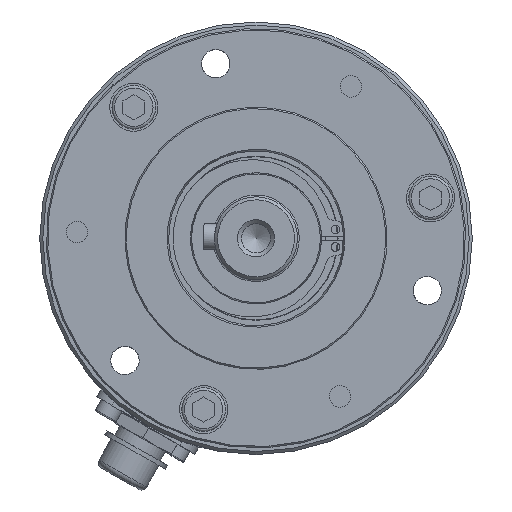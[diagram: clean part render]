
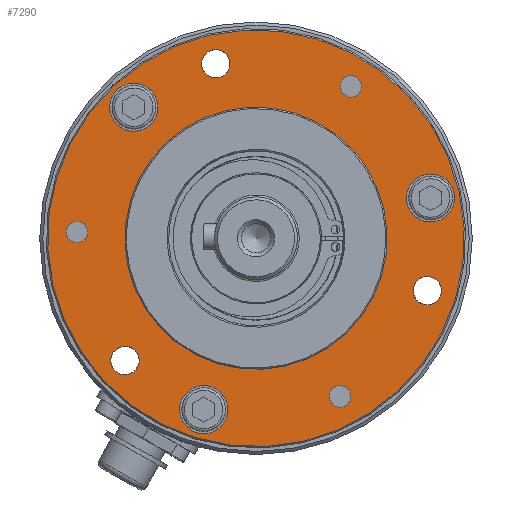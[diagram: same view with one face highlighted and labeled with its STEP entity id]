
A CAD part, left-side view. The second image highlights one B-rep face of the part: STEP entity #7290.
In plain terms, the highlighted planar face has unit normal (-1, 0, 0).
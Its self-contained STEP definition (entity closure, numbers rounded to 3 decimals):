
#1686=FACE_BOUND('',#2503,.T.);
#1687=FACE_BOUND('',#2504,.T.);
#1688=FACE_BOUND('',#2505,.T.);
#1689=FACE_BOUND('',#2506,.T.);
#1690=FACE_BOUND('',#2507,.T.);
#1691=FACE_BOUND('',#2508,.T.);
#1692=FACE_BOUND('',#2509,.T.);
#1693=FACE_BOUND('',#2510,.T.);
#1694=FACE_BOUND('',#2511,.T.);
#1695=FACE_BOUND('',#2512,.T.);
#1994=FACE_OUTER_BOUND('',#2502,.T.);
#2502=EDGE_LOOP('',(#5338));
#2503=EDGE_LOOP('',(#5339));
#2504=EDGE_LOOP('',(#5340));
#2505=EDGE_LOOP('',(#5341));
#2506=EDGE_LOOP('',(#5342));
#2507=EDGE_LOOP('',(#5343));
#2508=EDGE_LOOP('',(#5344));
#2509=EDGE_LOOP('',(#5345));
#2510=EDGE_LOOP('',(#5346));
#2511=EDGE_LOOP('',(#5347));
#2512=EDGE_LOOP('',(#5348));
#3189=CIRCLE('',#7830,2.459);
#3191=CIRCLE('',#7833,2.459);
#3193=CIRCLE('',#7836,2.459);
#3194=CIRCLE('',#7838,5.5);
#3197=CIRCLE('',#7843,5.5);
#3199=CIRCLE('',#7847,5.5);
#3202=CIRCLE('',#7852,3.25);
#3203=CIRCLE('',#7854,3.25);
#3204=CIRCLE('',#7856,3.25);
#3205=CIRCLE('',#7858,30.);
#3210=CIRCLE('',#7866,47.7);
#3644=VERTEX_POINT('',#11083);
#3646=VERTEX_POINT('',#11088);
#3648=VERTEX_POINT('',#11093);
#3649=VERTEX_POINT('',#11096);
#3652=VERTEX_POINT('',#11104);
#3654=VERTEX_POINT('',#11110);
#3657=VERTEX_POINT('',#11118);
#3658=VERTEX_POINT('',#11121);
#3659=VERTEX_POINT('',#11124);
#3660=VERTEX_POINT('',#11127);
#3665=VERTEX_POINT('',#11140);
#4338=EDGE_CURVE('',#3644,#3644,#3189,.T.);
#4340=EDGE_CURVE('',#3646,#3646,#3191,.T.);
#4342=EDGE_CURVE('',#3648,#3648,#3193,.T.);
#4343=EDGE_CURVE('',#3649,#3649,#3194,.T.);
#4346=EDGE_CURVE('',#3652,#3652,#3197,.T.);
#4348=EDGE_CURVE('',#3654,#3654,#3199,.T.);
#4351=EDGE_CURVE('',#3657,#3657,#3202,.T.);
#4352=EDGE_CURVE('',#3658,#3658,#3203,.T.);
#4353=EDGE_CURVE('',#3659,#3659,#3204,.T.);
#4354=EDGE_CURVE('',#3660,#3660,#3205,.T.);
#4359=EDGE_CURVE('',#3665,#3665,#3210,.T.);
#5338=ORIENTED_EDGE('',*,*,#4359,.F.);
#5339=ORIENTED_EDGE('',*,*,#4354,.T.);
#5340=ORIENTED_EDGE('',*,*,#4338,.T.);
#5341=ORIENTED_EDGE('',*,*,#4340,.T.);
#5342=ORIENTED_EDGE('',*,*,#4342,.T.);
#5343=ORIENTED_EDGE('',*,*,#4343,.T.);
#5344=ORIENTED_EDGE('',*,*,#4346,.T.);
#5345=ORIENTED_EDGE('',*,*,#4348,.T.);
#5346=ORIENTED_EDGE('',*,*,#4351,.T.);
#5347=ORIENTED_EDGE('',*,*,#4352,.T.);
#5348=ORIENTED_EDGE('',*,*,#4353,.T.);
#7030=PLANE('',#7865);
#7290=ADVANCED_FACE('',(#1994,#1686,#1687,#1688,#1689,#1690,#1691,#1692,
#1693,#1694,#1695),#7030,.T.);
#7830=AXIS2_PLACEMENT_3D('',#11084,#8856,#8857);
#7833=AXIS2_PLACEMENT_3D('',#11089,#8862,#8863);
#7836=AXIS2_PLACEMENT_3D('',#11094,#8868,#8869);
#7838=AXIS2_PLACEMENT_3D('',#11097,#8872,#8873);
#7843=AXIS2_PLACEMENT_3D('',#11105,#8882,#8883);
#7847=AXIS2_PLACEMENT_3D('',#11111,#8890,#8891);
#7852=AXIS2_PLACEMENT_3D('',#11119,#8900,#8901);
#7854=AXIS2_PLACEMENT_3D('',#11122,#8904,#8905);
#7856=AXIS2_PLACEMENT_3D('',#11125,#8908,#8909);
#7858=AXIS2_PLACEMENT_3D('',#11128,#8912,#8913);
#7865=AXIS2_PLACEMENT_3D('',#11139,#8926,#8927);
#7866=AXIS2_PLACEMENT_3D('',#11141,#8928,#8929);
#8856=DIRECTION('center_axis',(1.,0.,0.));
#8857=DIRECTION('ref_axis',(0.,-0.225,-0.974));
#8862=DIRECTION('center_axis',(1.,0.,0.));
#8863=DIRECTION('ref_axis',(0.,-0.225,-0.974));
#8868=DIRECTION('center_axis',(1.,0.,0.));
#8869=DIRECTION('ref_axis',(0.,-0.225,-0.974));
#8872=DIRECTION('center_axis',(1.,0.,0.));
#8873=DIRECTION('ref_axis',(0.,-0.225,-0.974));
#8882=DIRECTION('center_axis',(1.,0.,0.));
#8883=DIRECTION('ref_axis',(0.,-0.225,-0.974));
#8890=DIRECTION('center_axis',(1.,0.,0.));
#8891=DIRECTION('ref_axis',(0.,-0.225,-0.974));
#8900=DIRECTION('center_axis',(1.,0.,0.));
#8901=DIRECTION('ref_axis',(0.,-0.225,-0.974));
#8904=DIRECTION('center_axis',(1.,0.,0.));
#8905=DIRECTION('ref_axis',(0.,-0.225,-0.974));
#8908=DIRECTION('center_axis',(1.,0.,0.));
#8909=DIRECTION('ref_axis',(0.,-0.225,-0.974));
#8912=DIRECTION('center_axis',(1.,0.,0.));
#8913=DIRECTION('ref_axis',(0.,-0.974,0.225));
#8926=DIRECTION('center_axis',(-1.,0.,0.));
#8927=DIRECTION('ref_axis',(0.,-0.225,-0.974));
#8928=DIRECTION('center_axis',(1.,0.,0.));
#8929=DIRECTION('ref_axis',(0.,0.974,-0.225));
#11083=CARTESIAN_POINT('',(-14.5,-19.801,-38.596));
#11084=CARTESIAN_POINT('Origin',(-14.5,-19.248,-36.201));
#11088=CARTESIAN_POINT('',(-14.5,-22.28,32.374));
#11089=CARTESIAN_POINT('Origin',(-14.5,-21.727,34.77));
#11093=CARTESIAN_POINT('',(-14.5,40.422,-0.965));
#11094=CARTESIAN_POINT('Origin',(-14.5,40.975,1.431));
#11096=CARTESIAN_POINT('',(-14.5,26.725,24.626));
#11097=CARTESIAN_POINT('Origin',(-14.5,27.962,29.986));
#11104=CARTESIAN_POINT('',(-14.5,-41.186,3.864));
#11105=CARTESIAN_POINT('Origin',(-14.5,-39.949,9.223));
#11110=CARTESIAN_POINT('',(-14.5,10.75,-44.568));
#11111=CARTESIAN_POINT('Origin',(-14.5,11.987,-39.208));
#11118=CARTESIAN_POINT('',(-14.5,8.492,36.782));
#11119=CARTESIAN_POINT('Origin',(-14.5,9.223,39.949));
#11121=CARTESIAN_POINT('',(-14.5,-39.94,-15.154));
#11122=CARTESIAN_POINT('Origin',(-14.5,-39.208,-11.987));
#11124=CARTESIAN_POINT('',(-14.5,29.254,-31.129));
#11125=CARTESIAN_POINT('Origin',(-14.5,29.986,-27.962));
#11127=CARTESIAN_POINT('',(-14.5,-29.231,6.749));
#11128=CARTESIAN_POINT('Origin',(-14.5,0.,0.));
#11139=CARTESIAN_POINT('Origin',(-14.5,-38.,8.773));
#11140=CARTESIAN_POINT('',(-14.5,-46.477,10.73));
#11141=CARTESIAN_POINT('Origin',(-14.5,0.,0.));
